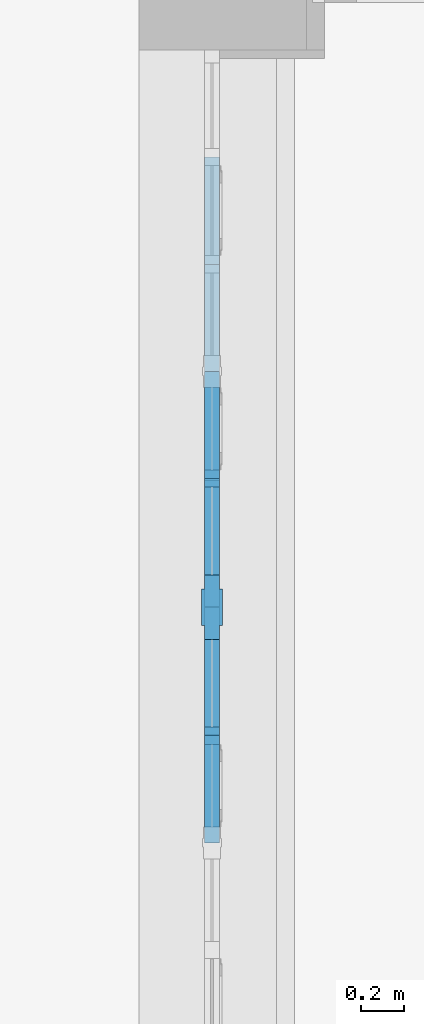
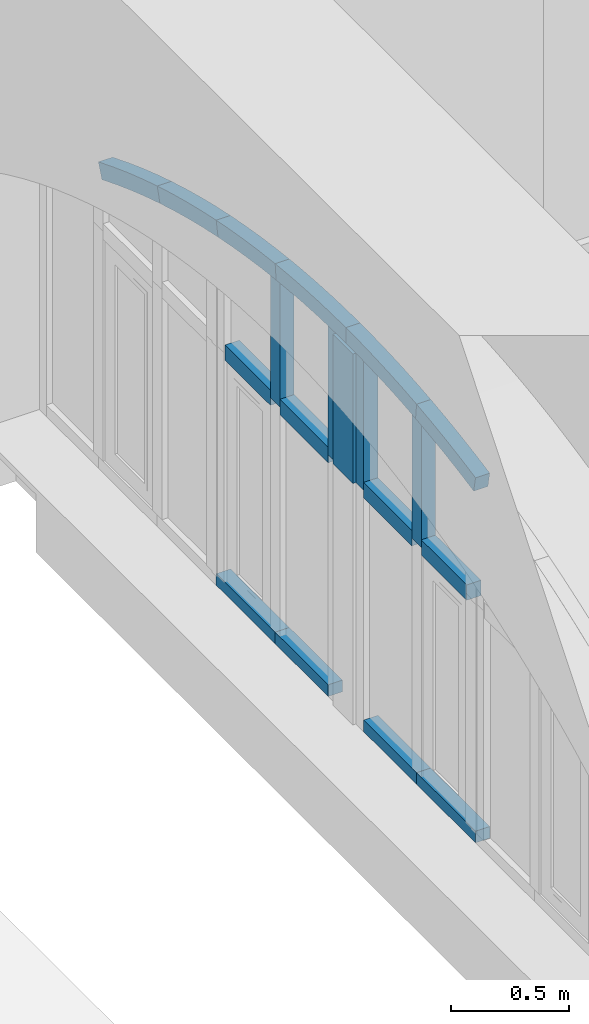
# One storey, part 37 of 88: 17 members, 1 element without a shape of its own.
"""IFC2X3 building model written with IfcOpenShell, lengths in millimetres."""

import ifcopenshell
import ifcopenshell.guid

model = None  # the IFC model being written
_history = None  # IfcOwnerHistory: only IFC2X3 demands one
_inside = {}  # id of a spatial element -> (the spatial element, [elements in it])
_under = {}  # id of a project, library or spatial element -> (it, [spatial elements below it])
_declared = {}  # id of a project -> (the project, [libraries it declares])
_typed = {}  # id of a type object -> (the type object, [elements of that type])
_made_of = {}  # id of a material, layer set ... -> (it, [elements and type objects made of it])


def new_model(schema):
    """Start an empty IFC model of exactly this schema.

    Asked for "IFC4X3", IfcOpenShell would pick the latest addendum, in which some entities
    have other attributes; the version numbers below select the first issue.
    IFC2X3 requires an IfcOwnerHistory on every rooted entity: one is made here for all.
    """
    global model, _history
    if schema == "IFC4X3":
        model = ifcopenshell.file(schema_version=(4, 3, 0, 0))
    else:
        model = ifcopenshell.file(schema=schema)
    _inside.clear()
    _under.clear()
    _declared.clear()
    _typed.clear()
    _made_of.clear()
    _history = None
    if model.schema == "IFC2X3":
        org = make("IfcOrganization", Name="unknown")
        user = make(
            "IfcPersonAndOrganization",
            ThePerson=make("IfcPerson", FamilyName="unknown"),
            TheOrganization=org,
        )
        app = make(
            "IfcApplication",
            ApplicationDeveloper=org,
            Version="unknown",
            ApplicationFullName="unknown",
            ApplicationIdentifier="unknown",
        )
        _history = make(
            "IfcOwnerHistory",
            OwningUser=user,
            OwningApplication=app,
            ChangeAction="ADDED",
            CreationDate=0,
        )
    return model


def make(cls, **values):
    """One entity of the class cls with the attributes given. An attribute that is None is left unset."""
    return model.create_entity(
        cls, **{name: value for name, value in values.items() if value is not None}
    )


def entity(cls, *values):
    """Any entity or typed value of the class cls, its attributes in the order of the schema. None: left unset."""
    e = model.create_entity(cls)
    for i, value in enumerate(values):
        if value is not None:
            e[i] = value
    return e


def rooted(cls, **values):
    """An entity with a GlobalId (a new one), such as an element, a storey or a relation."""
    return make(cls, GlobalId=ifcopenshell.guid.new(), OwnerHistory=_history, **values)


def si_unit(unit_type, name, prefix=None):
    """IfcSIUnit, for example si_unit("LENGTHUNIT", "METRE", prefix="MILLI")."""
    return make("IfcSIUnit", UnitType=unit_type, Prefix=prefix, Name=name)


def converted_unit(unit_type, name, factor, base, dimensions=None, offset=None):
    """IfcConversionBasedUnit, such as the inch: factor (a typed value) times the base unit."""
    return make(
        "IfcConversionBasedUnit"
        if offset is None
        else "IfcConversionBasedUnitWithOffset",
        ConversionOffset=offset,
        Dimensions=None
        if dimensions is None
        else entity("IfcDimensionalExponents", *dimensions),
        UnitType=unit_type,
        Name=name,
        ConversionFactor=make(
            "IfcMeasureWithUnit", ValueComponent=factor, UnitComponent=base
        ),
    )


def derived_unit(unit_type, elements):
    """IfcDerivedUnit: a product of units, each with its exponent."""
    return make(
        "IfcDerivedUnit",
        Elements=[
            make("IfcDerivedUnitElement", Unit=unit, Exponent=power)
            for unit, power in elements
        ],
        UnitType=unit_type,
    )


def assignment(units):
    """IfcUnitAssignment: the units of a project."""
    return None if units is None else make("IfcUnitAssignment", Units=units)


def point(xyz):
    """IfcCartesianPoint."""
    return None if xyz is None else make("IfcCartesianPoint", Coordinates=xyz)


def direction(xyz):
    """IfcDirection."""
    return None if xyz is None else make("IfcDirection", DirectionRatios=xyz)


def frame(location, z_axis=None, x_axis=None):
    """IfcAxis2Placement3D, a coordinate frame: its origin and axes. An axis left out is left unset."""
    return make(
        "IfcAxis2Placement3D",
        Location=point(location),
        Axis=direction(z_axis),
        RefDirection=direction(x_axis),
    )


def frame_2d(location, x_axis=None):
    """IfcAxis2Placement2D, a coordinate frame in the plane: its origin and x axis."""
    return make(
        "IfcAxis2Placement2D", Location=point(location), RefDirection=direction(x_axis)
    )


def origin():
    """The frame at (0, 0, 0) with its axes left unset."""
    return frame((0.0, 0.0, 0.0))


def place(relative_to, where):
    """IfcLocalPlacement: puts the frame where relative to a parent placement (None: the world)."""
    return make(
        "IfcLocalPlacement", PlacementRelTo=relative_to, RelativePlacement=where
    )


def context(
    kind, dimensions, precision=None, world=None, true_north=None, identifier=None
):
    """IfcGeometricRepresentationContext, for example the 3D "Model" context."""
    return make(
        "IfcGeometricRepresentationContext",
        ContextIdentifier=identifier,
        ContextType=kind,
        CoordinateSpaceDimension=dimensions,
        Precision=precision,
        WorldCoordinateSystem=world,
        TrueNorth=true_north,
    )


def subcontext(parent, identifier, kind, view, scale=None):
    """IfcGeometricRepresentationSubContext, for example "Body" below "Model"."""
    return make(
        "IfcGeometricRepresentationSubContext",
        ContextIdentifier=identifier,
        ContextType=kind,
        ParentContext=parent,
        TargetScale=scale,
        TargetView=view,
    )


def project(units=None, contexts=None):
    """IfcProject with its units and contexts."""
    return rooted(
        "IfcProject",
        Name="project",
        RepresentationContexts=contexts,
        UnitsInContext=assignment(units),
    )


def spatial(cls, under=None, at=None, **own):
    """A site, building, storey or space (cls), placed at a placement, below another one or the project."""
    s = rooted(cls, ObjectPlacement=at, **own)
    if under is not None:
        _under.setdefault(under.id(), (under, []))[1].append(s)
    return s


def polyline(points):
    """IfcPolyline through the points."""
    return make("IfcPolyline", Points=[point(p) for p in points])


def circle_curve(where, radius):
    """IfcCircle in the frame where."""
    return make("IfcCircle", Position=where, Radius=radius)


def parameter(value):
    """IfcParameterValue: where a trimmed curve begins or ends, as a parameter of its basis curve."""
    return model.create_entity("IfcParameterValue", value)


def trimmed(basis, trim1, trim2, sense, master):
    """IfcTrimmedCurve: the piece of a basis curve between two trims."""
    return make(
        "IfcTrimmedCurve",
        BasisCurve=basis,
        Trim1=trim1,
        Trim2=trim2,
        SenseAgreement=sense,
        MasterRepresentation=master,
    )


def segment(curve, same_sense, transition):
    """IfcCompositeCurveSegment."""
    return make(
        "IfcCompositeCurveSegment",
        Transition=transition,
        SameSense=same_sense,
        ParentCurve=curve,
    )


def composite_curve(segments, self_intersect=None):
    """IfcCompositeCurve: segments joined end to end."""
    return make("IfcCompositeCurve", Segments=segments, SelfIntersect=self_intersect)


def profile(cls, at=None, kind="AREA", **sizes):
    """A parametric profile (cls). Its sizes go by their IFC names, for example OverallWidth=200.0."""
    return make(cls, ProfileType=kind, Position=at, **sizes)


def rectangle(**sizes):
    """IfcRectangleProfileDef."""
    return profile("IfcRectangleProfileDef", **sizes)


def outline(outer, holes=None, kind="AREA"):
    """IfcArbitraryClosedProfileDef: a profile drawn as a closed curve; with holes, ...WithVoids."""
    if holes is None:
        return make("IfcArbitraryClosedProfileDef", ProfileType=kind, OuterCurve=outer)
    return make(
        "IfcArbitraryProfileDefWithVoids",
        ProfileType=kind,
        OuterCurve=outer,
        InnerCurves=holes,
    )


def extrude(swept, where, along, depth):
    """IfcExtrudedAreaSolid: the profile swept, set in the frame where, extruded along a direction by depth."""
    return make(
        "IfcExtrudedAreaSolid",
        SweptArea=swept,
        Position=where,
        ExtrudedDirection=direction(along),
        Depth=depth,
    )


def faces_of(points, faces, orient=None, outer=None):
    """IfcFace entities. A face is a list of loops; a loop is a list of indices into points, from 0.

    orient and outer hold one flag for each loop. By default every Orientation is true, the
    first loop of a face is its IfcFaceOuterBound and the others are IfcFaceBound.
    """
    made = []
    for i, loops in enumerate(faces):
        bounds = []
        for j, loop in enumerate(loops):
            is_outer = j == 0 if outer is None else outer[i][j]
            bounds.append(
                make(
                    "IfcFaceOuterBound" if is_outer else "IfcFaceBound",
                    Bound=make("IfcPolyLoop", Polygon=[points[k] for k in loop]),
                    Orientation=True if orient is None else orient[i][j],
                )
            )
        made.append(make("IfcFace", Bounds=bounds))
    return made


def faceted_brep(points, faces, orient=None, outer=None, voids=None):
    """IfcFacetedBrep: a solid bounded by flat faces; with voids (closed shells), ...WithVoids."""
    shared = [point(p) for p in points]
    hull = make("IfcClosedShell", CfsFaces=faces_of(shared, faces, orient, outer))
    if voids is None:
        return make("IfcFacetedBrep", Outer=hull)
    return make(
        "IfcFacetedBrepWithVoids",
        Outer=hull,
        Voids=[
            make(cls, CfsFaces=faces_of(shared, fs, o, b)) for cls, fs, o, b in voids
        ],
    )


def shape(context_of_items, identifier, shape_type, items):
    """IfcShapeRepresentation: the items that make up one representation, for example the "Body"."""
    return make(
        "IfcShapeRepresentation",
        ContextOfItems=context_of_items,
        RepresentationIdentifier=identifier,
        RepresentationType=shape_type,
        Items=items,
    )


def source(mapping_origin, context_of_items, identifier, shape_type, items):
    """IfcRepresentationMap: a shape defined once, which mapped items show again and again."""
    return make(
        "IfcRepresentationMap",
        MappingOrigin=mapping_origin,
        MappedRepresentation=shape(context_of_items, identifier, shape_type, items),
    )


def transform(
    local_origin,
    x_axis=None,
    y_axis=None,
    z_axis=None,
    scale=None,
    scale2=None,
    scale3=None,
    uniform=True,
):
    """IfcCartesianTransformationOperator3D, or its non-uniform kind. x_axis, y_axis, z_axis: its Axis1, 2, 3."""
    if uniform:
        return make(
            "IfcCartesianTransformationOperator3D",
            Axis1=direction(x_axis),
            Axis2=direction(y_axis),
            LocalOrigin=point(local_origin),
            Scale=scale,
            Axis3=direction(z_axis),
        )
    return make(
        "IfcCartesianTransformationOperator3DnonUniform",
        Axis1=direction(x_axis),
        Axis2=direction(y_axis),
        LocalOrigin=point(local_origin),
        Scale=scale,
        Axis3=direction(z_axis),
        Scale2=scale2,
        Scale3=scale3,
    )


def mapped(mapping_source, mapping_target):
    """IfcMappedItem: shows the shape of a source again, moved by a transform."""
    return make(
        "IfcMappedItem", MappingSource=mapping_source, MappingTarget=mapping_target
    )


def material(Name=None, Category=None):
    """IfcMaterial."""
    return make("IfcMaterial", Name=Name, Category=Category)


def made_of(thing, what):
    """Note that an element or type object is made of a material, layer set ...; save() writes the relation."""
    if what is not None:
        _made_of.setdefault(what.id(), (what, []))[1].append(thing)
    return thing


def type_object(cls, material=None, **own):
    """A type object (cls), such as IfcWallType, which elements share."""
    return made_of(rooted(cls, **own), material)


def type_shapes(of_type, sources):
    """Give a type object the sources (RepresentationMaps) that its elements show as mapped items."""
    of_type.RepresentationMaps = sources


def element(
    cls,
    number,
    at=None,
    inside=None,
    cuts=None,
    type_object=None,
    material=None,
    context=None,
    identifier="Body",
    shape_type=None,
    held_by="IfcProductDefinitionShape",
    body=None,
    shapes=None,
    **own,
):
    """One element of the class cls, such as IfcWall. Its Tag is "e" and its number.

    at: its placement. inside: the storey or other place that contains it. cuts: it is an
    opening in that element (IfcRelVoidsElement). A single representation is given by context,
    identifier, shape_type and body (its items); several are given by shapes. held_by: the class
    of the entity that holds the representations. save() writes the other relations.
    """
    e = rooted(cls, Tag="e%d" % number, ObjectPlacement=at, **own)
    if body is not None:
        shapes = [shape(context, identifier, shape_type, body)]
    if shapes is not None:
        e.Representation = make(held_by, Representations=shapes)
    if inside is not None:
        _inside.setdefault(inside.id(), (inside, []))[1].append(e)
    if cuts is not None:
        rooted(
            "IfcRelVoidsElement", RelatingBuildingElement=cuts, RelatedOpeningElement=e
        )
    if type_object is not None:
        _typed.setdefault(type_object.id(), (type_object, []))[1].append(e)
    return made_of(e, material)


def aggregate(whole, parts):
    """IfcRelAggregates: a whole, such as a stair, and the parts it consists of."""
    return rooted("IfcRelAggregates", RelatingObject=whole, RelatedObjects=parts)


def save(model, path):
    """Write the relations noted so far, then the file.

    IfcRelAggregates (storeys below a building ...), IfcRelContainedInSpatialStructure (elements
    in a storey), IfcRelDefinesByType, IfcRelAssociatesMaterial and IfcRelDeclares: one each for
    every whole, place, type object, material and project.
    """
    for whole, parts in _under.values():
        aggregate(whole, parts)
    for where, things in _inside.values():
        rooted(
            "IfcRelContainedInSpatialStructure",
            RelatedElements=things,
            RelatingStructure=where,
        )
    for kind, things in _typed.values():
        rooted("IfcRelDefinesByType", RelatedObjects=things, RelatingType=kind)
    for what, things in _made_of.values():
        rooted("IfcRelAssociatesMaterial", RelatedObjects=things, RelatingMaterial=what)
    for by, libraries in _declared.values():
        rooted("IfcRelDeclares", RelatingContext=by, RelatedDefinitions=libraries)
    model.write(path)


model = new_model("IFC2X3")

# Units and contexts
model_context = context("Model", 3, precision=0.01, world=origin(), true_north=direction((6.123031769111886e-17, 1.0)))
body_context = subcontext(model_context, "Body", "Model", "MODEL_VIEW")
ifc_project = project(units=[si_unit("LENGTHUNIT", "METRE", prefix="MILLI"), si_unit("AREAUNIT", "SQUARE_METRE"), si_unit("VOLUMEUNIT", "CUBIC_METRE"), converted_unit("PLANEANGLEUNIT", "DEGREE", entity("IfcPlaneAngleMeasure", 0.017453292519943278), si_unit("PLANEANGLEUNIT", "RADIAN"), dimensions=[0, 0, 0, 0, 0, 0, 0]), si_unit("MASSUNIT", "GRAM", prefix="KILO"), derived_unit("MASSDENSITYUNIT", [(si_unit("MASSUNIT", "GRAM", prefix="KILO"), 1), (si_unit("LENGTHUNIT", "METRE"), -3)]), derived_unit("IONCONCENTRATIONUNIT", [(si_unit("MASSUNIT", "GRAM", prefix="KILO"), 1), (si_unit("LENGTHUNIT", "METRE"), -3)]), derived_unit("MOMENTOFINERTIAUNIT", [(si_unit("LENGTHUNIT", "METRE"), 4)]), si_unit("TIMEUNIT", "SECOND"), si_unit("FREQUENCYUNIT", "HERTZ"), si_unit("THERMODYNAMICTEMPERATUREUNIT", "DEGREE_CELSIUS"), derived_unit("THERMALTRANSMITTANCEUNIT", [(si_unit("MASSUNIT", "GRAM", prefix="KILO"), 1), (si_unit("THERMODYNAMICTEMPERATUREUNIT", "KELVIN"), -1), (si_unit("TIMEUNIT", "SECOND"), -3)]), derived_unit("THERMALCONDUCTANCEUNIT", [(si_unit("MASSUNIT", "GRAM", prefix="KILO"), 1), (si_unit("THERMODYNAMICTEMPERATUREUNIT", "KELVIN"), -1), (si_unit("TIMEUNIT", "SECOND"), -3), (si_unit("LENGTHUNIT", "METRE"), 1)]), derived_unit("VOLUMETRICFLOWRATEUNIT", [(si_unit("LENGTHUNIT", "METRE", prefix="DECI"), 3), (si_unit("TIMEUNIT", "SECOND"), -1)]), derived_unit("MASSFLOWRATEUNIT", [(si_unit("MASSUNIT", "GRAM", prefix="KILO"), 1), (si_unit("TIMEUNIT", "SECOND"), -1)]), derived_unit("ROTATIONALFREQUENCYUNIT", [(si_unit("TIMEUNIT", "SECOND"), -1)]), si_unit("ELECTRICCURRENTUNIT", "AMPERE"), si_unit("ELECTRICVOLTAGEUNIT", "VOLT"), si_unit("POWERUNIT", "WATT"), si_unit("FORCEUNIT", "NEWTON", prefix="KILO"), si_unit("ILLUMINANCEUNIT", "LUX"), si_unit("LUMINOUSFLUXUNIT", "LUMEN"), si_unit("LUMINOUSINTENSITYUNIT", "CANDELA"), si_unit("ENERGYUNIT", "JOULE"), derived_unit("USERDEFINED", [(si_unit("MASSUNIT", "GRAM", prefix="KILO"), -1), (si_unit("LENGTHUNIT", "METRE"), -2), (si_unit("TIMEUNIT", "SECOND"), 3), (si_unit("LUMINOUSFLUXUNIT", "LUMEN"), 1)]), derived_unit("USERDEFINED", [(si_unit("MASSUNIT", "GRAM", prefix="KILO"), 1), (si_unit("TIMEUNIT", "SECOND"), -3), (si_unit("LENGTHUNIT", "METRE"), 3), (si_unit("ELECTRICCURRENTUNIT", "AMPERE"), -2)]), derived_unit("SOUNDPOWERUNIT", [(si_unit("MASSUNIT", "GRAM", prefix="KILO"), 1), (si_unit("TIMEUNIT", "SECOND"), -3), (si_unit("LENGTHUNIT", "METRE"), 2)]), derived_unit("SOUNDPRESSUREUNIT", [(si_unit("MASSUNIT", "GRAM", prefix="KILO"), 1), (si_unit("LENGTHUNIT", "METRE"), -1), (si_unit("TIMEUNIT", "SECOND"), -2)]), derived_unit("LINEARVELOCITYUNIT", [(si_unit("LENGTHUNIT", "METRE"), 1), (si_unit("TIMEUNIT", "SECOND"), -1)]), si_unit("PRESSUREUNIT", "PASCAL"), derived_unit("USERDEFINED", [(si_unit("MASSUNIT", "GRAM", prefix="KILO"), 1), (si_unit("LENGTHUNIT", "METRE"), -2), (si_unit("TIMEUNIT", "SECOND"), -2)]), derived_unit("LINEARFORCEUNIT", [(si_unit("MASSUNIT", "GRAM", prefix="KILO"), 1), (si_unit("TIMEUNIT", "SECOND"), -2)]), derived_unit("PLANARFORCEUNIT", [(si_unit("MASSUNIT", "GRAM", prefix="KILO"), 1), (si_unit("LENGTHUNIT", "METRE"), -1), (si_unit("TIMEUNIT", "SECOND"), -2)]), derived_unit("SPECIFICHEATCAPACITYUNIT", [(si_unit("THERMODYNAMICTEMPERATUREUNIT", "KELVIN"), -1), (si_unit("LENGTHUNIT", "METRE"), 2), (si_unit("TIMEUNIT", "SECOND"), -2)]), derived_unit("HEATFLUXDENSITYUNIT", [(si_unit("MASSUNIT", "GRAM", prefix="KILO"), 1), (si_unit("TIMEUNIT", "SECOND"), -3)]), derived_unit("HEATINGVALUEUNIT", [(si_unit("LENGTHUNIT", "METRE"), 2), (si_unit("TIMEUNIT", "SECOND"), -2)]), derived_unit("VAPORPERMEABILITYUNIT", [(si_unit("LENGTHUNIT", "METRE"), -1), (si_unit("TIMEUNIT", "SECOND"), 1)]), derived_unit("DYNAMICVISCOSITYUNIT", [(si_unit("MASSUNIT", "GRAM", prefix="KILO"), 1), (si_unit("TIMEUNIT", "SECOND"), -1), (si_unit("LENGTHUNIT", "METRE"), -1)]), derived_unit("THERMALEXPANSIONCOEFFICIENTUNIT", [(si_unit("THERMODYNAMICTEMPERATUREUNIT", "KELVIN"), -1)]), derived_unit("MODULUSOFELASTICITYUNIT", [(si_unit("MASSUNIT", "GRAM", prefix="KILO"), 1), (si_unit("LENGTHUNIT", "METRE"), -1), (si_unit("TIMEUNIT", "SECOND"), -2)]), derived_unit("ISOTHERMALMOISTURECAPACITYUNIT", [(si_unit("MASSUNIT", "GRAM", prefix="KILO"), -1), (si_unit("LENGTHUNIT", "METRE"), 3)]), derived_unit("MOISTUREDIFFUSIVITYUNIT", [(si_unit("TIMEUNIT", "SECOND"), -1), (si_unit("LENGTHUNIT", "METRE"), 2)]), derived_unit("MASSPERLENGTHUNIT", [(si_unit("MASSUNIT", "GRAM", prefix="KILO"), 1), (si_unit("LENGTHUNIT", "METRE"), -1)]), derived_unit("THERMALRESISTANCEUNIT", [(si_unit("MASSUNIT", "GRAM", prefix="KILO"), -1), (si_unit("TIMEUNIT", "SECOND"), 3), (si_unit("THERMODYNAMICTEMPERATUREUNIT", "KELVIN"), 1)]), derived_unit("ACCELERATIONUNIT", [(si_unit("LENGTHUNIT", "METRE"), 1), (si_unit("TIMEUNIT", "SECOND"), -2)]), derived_unit("ANGULARVELOCITYUNIT", [(si_unit("TIMEUNIT", "SECOND"), -1), (si_unit("PLANEANGLEUNIT", "RADIAN"), 1)]), derived_unit("LINEARSTIFFNESSUNIT", [(si_unit("MASSUNIT", "GRAM", prefix="KILO"), 1), (si_unit("TIMEUNIT", "SECOND"), -2)]), derived_unit("WARPINGCONSTANTUNIT", [(si_unit("LENGTHUNIT", "METRE"), 6)]), derived_unit("LINEARMOMENTUNIT", [(si_unit("MASSUNIT", "GRAM", prefix="KILO"), 1), (si_unit("LENGTHUNIT", "METRE"), 1), (si_unit("TIMEUNIT", "SECOND"), -2)]), derived_unit("TORQUEUNIT", [(si_unit("MASSUNIT", "GRAM", prefix="KILO"), 1), (si_unit("LENGTHUNIT", "METRE"), 2), (si_unit("TIMEUNIT", "SECOND"), -2)])], contexts=[model_context])

# Site, building, storey
site_placement = place(None, origin())
site = spatial("IfcSite", under=ifc_project, at=site_placement, Name="Default", CompositionType="ELEMENT")
building_placement = place(site_placement, origin())
building = spatial("IfcBuilding", under=site, at=building_placement, Name="Eesti Rahvusraamatukogu hoone renoveerimise projekteerimistööd", CompositionType="ELEMENT")
storey_placement = place(building_placement, origin())
storey = spatial("IfcBuildingStorey", under=building, at=storey_placement, Name="1. korrus", CompositionType="ELEMENT", Elevation=0.0)

# Curtain wall, members
curtain_wall_type = type_object("IfcCurtainWallType", Name="Curtain Wall:Ak-02", PredefinedType="NOTDEFINED")
curtain_wall_placement = place(storey_placement, origin())
curtain_wall = element("IfcCurtainWall", 1, at=curtain_wall_placement, inside=storey, type_object=curtain_wall_type, Name="Curtain Wall:Ak-02", ObjectType="Curtain Wall:Ak-02")
ifc_material = material(Name="LUMION_dark steel window frames")
member_type_1 = type_object("IfcMemberType", Name="Rectangular Mullion:NEW 80x70mm", PredefinedType="MULLION", material=ifc_material)
shared_shape_1 = source(origin(), body_context, "Body", "SweptSolid", [
    extrude(outline(composite_curve([segment(polyline([(-52.664386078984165, -263.1530214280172), (27.33561392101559, -263.1530214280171)]), True, "CONTINUOUS"), segment(trimmed(circle_curve(frame_2d((5468.051293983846, -263.1530214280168), x_axis=(-0.9953785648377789, 0.09602870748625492)), 5440.715680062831), [parameter(3.5622212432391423e-13)], [parameter(5.510531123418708)], True, "PARAMETER"), False, "CONTINUOUS"), segment(polyline([(52.479528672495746, 259.31187312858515), (-27.150756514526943, 266.9941697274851)]), True, "CONTINUOUS"), segment(trimmed(circle_curve(frame_2d((5468.051293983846, -263.1530214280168), x_axis=(-0.9953785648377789, 0.09602870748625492)), 5520.715680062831), [parameter(3.5622212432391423e-13)], [parameter(5.510531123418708)], True, "PARAMETER"), True, "CONTINUOUS")], self_intersect=False)), frame((-52.66438607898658, -35.0, -263.1530214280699), z_axis=(0.0, 1.0, 0.0), x_axis=(-0.9953785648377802, 0.0, 0.09602870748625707)), (0.0, 0.0, 1.0), 69.99999999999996),
])
type_shapes(member_type_1, [shared_shape_1])
member_1_placement = place(curtain_wall_placement, frame((-36440.0, 34990.0, 3743.6333100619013), z_axis=(0.0, -0.9570819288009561, 0.2898174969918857), x_axis=(0.0, 0.2898174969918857, 0.9570819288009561)))
member_1 = element("IfcMember", 2, at=member_1_placement, type_object=member_type_1, material=ifc_material, Name="Rectangular Mullion:NEW 80x70mm", ObjectType="Rectangular Mullion:NEW 80x70mm", context=body_context, shape_type="MappedRepresentation", body=[
    mapped(shared_shape_1, transform((0.0, 0.0, 0.0), scale=1.0)),
])
member_type_2 = type_object("IfcMemberType", Name="Rectangular Mullion:NEW 80x70mm", PredefinedType="MULLION", material=ifc_material)
shared_shape_2 = source(origin(), body_context, "Body", "SweptSolid", [
    extrude(outline(composite_curve([segment(polyline([(-51.955427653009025, -255.69780513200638), (28.04457234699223, -255.69780513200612)]), True, "CONTINUOUS"), segment(trimmed(circle_curve(frame_2d((5468.760252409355, -255.69780513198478), x_axis=(-0.9956372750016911, 0.09330818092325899)), 5440.715680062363), [parameter(3.5622212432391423e-13)], [parameter(5.353953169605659)], True, "PARAMETER"), False, "CONTINUOUS"), segment(polyline([(51.78091865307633, 251.96547789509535), (-27.870063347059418, 259.4301323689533)]), True, "CONTINUOUS"), segment(trimmed(circle_curve(frame_2d((5468.760252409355, -255.69780513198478), x_axis=(-0.9956372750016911, 0.09330818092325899)), 5520.715680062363), [parameter(3.5622212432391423e-13)], [parameter(5.353953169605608)], True, "PARAMETER"), True, "CONTINUOUS")], self_intersect=False)), frame((-51.95542765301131, -35.0, -255.69780513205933), z_axis=(0.0, 1.0, 0.0), x_axis=(-0.9956372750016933, 0.0, 0.09330818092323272)), (0.0, 0.0, 1.0), 70.00000000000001),
])
type_shapes(member_type_2, [shared_shape_2])
member_2_placement = place(curtain_wall_placement, frame((-36440.0, 34490.0, 3869.8747326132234), z_axis=(0.0, -0.9799487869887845, 0.199249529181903), x_axis=(0.0, 0.199249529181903, 0.9799487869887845)))
member_2 = element("IfcMember", 3, at=member_2_placement, type_object=member_type_2, material=ifc_material, Name="Rectangular Mullion:NEW 80x70mm", ObjectType="Rectangular Mullion:NEW 80x70mm", context=body_context, shape_type="MappedRepresentation", body=[
    mapped(shared_shape_2, transform((0.0, 0.0, 0.0), scale=1.0)),
])
member_type_3 = type_object("IfcMemberType", Name="Rectangular Mullion:NEW 80x70mm", PredefinedType="MULLION", material=ifc_material)
shared_shape_3 = source(origin(), body_context, "Body", "SweptSolid", [
    extrude(outline(composite_curve([segment(polyline([(-51.51245202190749, -250.9261639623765), (28.487547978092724, -250.92616396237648)]), True, "CONTINUOUS"), segment(trimmed(circle_curve(frame_2d((5469.203228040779, -250.92616396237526), x_axis=(-0.99579892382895, 0.0915669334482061)), 5440.715680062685), [parameter(3.5622212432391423e-13)], [parameter(5.2537580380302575)], True, "PARAMETER"), False, "CONTINUOUS"), segment(polyline([(51.344408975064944, 247.26348662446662), (-28.319504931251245, 254.58884130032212)]), True, "CONTINUOUS"), segment(trimmed(circle_curve(frame_2d((5469.203228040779, -250.92616396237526), x_axis=(-0.99579892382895, 0.0915669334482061)), 5520.715680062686), [parameter(3.5622212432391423e-13)], [parameter(5.2537580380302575)], True, "PARAMETER"), True, "CONTINUOUS")], self_intersect=False)), frame((-51.51245202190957, -35.0, -250.92616396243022), z_axis=(0.0, 1.0, 0.0), x_axis=(-0.995798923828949, 0.0, 0.09156693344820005)), (0.0, 0.0, 1.0), 70.00000000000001),
])
type_shapes(member_type_3, [shared_shape_3])
member_3_placement = place(curtain_wall_placement, frame((-36440.0, 33990.0, 3947.8704590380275), z_axis=(0.0, -0.994076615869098, 0.1086815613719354), x_axis=(0.0, 0.1086815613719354, 0.994076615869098)))
member_3 = element("IfcMember", 4, at=member_3_placement, type_object=member_type_3, material=ifc_material, Name="Rectangular Mullion:NEW 80x70mm", ObjectType="Rectangular Mullion:NEW 80x70mm", context=body_context, shape_type="MappedRepresentation", body=[
    mapped(shared_shape_3, transform((0.0, 0.0, 0.0), scale=1.0)),
])
member_type_4 = type_object("IfcMemberType", Name="Rectangular Mullion:NEW 80x70mm", PredefinedType="MULLION", material=ifc_material)
shared_shape_4 = source(origin(), body_context, "Body", "SweptSolid", [
    extrude(outline(composite_curve([segment(polyline([(-56.23219214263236, -297.82636877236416), (23.767807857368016, -297.82636877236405)]), True, "CONTINUOUS"), segment(trimmed(circle_curve(frame_2d((5464.483487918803, -297.82636877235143), x_axis=(-0.9940766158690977, 0.10868156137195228)), 5440.715680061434), [parameter(3.053332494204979e-13)], [parameter(6.2393189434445)], True, "PARAMETER"), False, "CONTINUOUS"), segment(polyline([(55.99525677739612, 293.47910631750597), (-23.53087249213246, 302.1736312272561)]), True, "CONTINUOUS"), segment(trimmed(circle_curve(frame_2d((5464.483487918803, -297.82636877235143), x_axis=(-0.9940766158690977, 0.10868156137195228)), 5520.715680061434), [parameter(3.5622212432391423e-13)], [parameter(6.2393189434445)], True, "PARAMETER"), True, "CONTINUOUS")], self_intersect=False)), frame((-56.23219214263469, -35.0, -297.82636877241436), z_axis=(0.0, 1.0, 0.0), x_axis=(-0.9940766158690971, 0.0, 0.10868156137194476)), (0.0, 0.0, 1.0), 69.99999999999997),
])
type_shapes(member_type_4, [shared_shape_4])
member_4_placement = place(curtain_wall_placement, frame((-36440.0, 32790.0, 3947.8704590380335), z_axis=(0.0, -0.9940766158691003, -0.10868156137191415), x_axis=(0.0, -0.10868156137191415, 0.9940766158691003)))
member_4 = element("IfcMember", 5, at=member_4_placement, type_object=member_type_4, material=ifc_material, Name="Rectangular Mullion:NEW 80x70mm", ObjectType="Rectangular Mullion:NEW 80x70mm", context=body_context, shape_type="MappedRepresentation", body=[
    mapped(shared_shape_4, transform((0.0, 0.0, 0.0), scale=1.0)),
])
member_type_5 = type_object("IfcMemberType", Name="Rectangular Mullion:NEW 80x70mm", PredefinedType="MULLION", material=ifc_material)
shared_shape_5 = source(origin(), body_context, "Body", "SweptSolid", [
    extrude(outline(composite_curve([segment(polyline([(-51.51245202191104, -250.9261639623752), (28.487547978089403, -250.92616396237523)]), True, "CONTINUOUS"), segment(trimmed(circle_curve(frame_2d((5469.203228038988, -250.9261639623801), x_axis=(-0.9957989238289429, 0.09156693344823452)), 5440.715680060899), [parameter(3.5622212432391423e-13)], [parameter(5.253758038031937)], True, "PARAMETER"), False, "CONTINUOUS"), segment(polyline([(51.34440897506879, 247.26348662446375), (-28.319504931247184, 254.5888413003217)]), True, "CONTINUOUS"), segment(trimmed(circle_curve(frame_2d((5469.203228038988, -250.9261639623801), x_axis=(-0.9957989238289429, 0.09156693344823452)), 5520.715680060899), [parameter(3.5622212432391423e-13)], [parameter(5.253758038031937)], True, "PARAMETER"), True, "CONTINUOUS")], self_intersect=False)), frame((-51.512452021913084, -35.0, -250.926163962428), z_axis=(0.0, 1.0, 0.0), x_axis=(-0.9957989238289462, 0.0, 0.09156693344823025)), (0.0, 0.0, 1.0), 70.00000000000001),
])
type_shapes(member_type_5, [shared_shape_5])
member_5_placement = place(curtain_wall_placement, frame((-36440.0, 32290.0, 3869.874732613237), z_axis=(0.0, -0.9799487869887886, -0.19924952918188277), x_axis=(0.0, -0.19924952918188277, 0.9799487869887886)))
member_5 = element("IfcMember", 6, at=member_5_placement, type_object=member_type_5, material=ifc_material, Name="Rectangular Mullion:NEW 80x70mm", ObjectType="Rectangular Mullion:NEW 80x70mm", context=body_context, shape_type="MappedRepresentation", body=[
    mapped(shared_shape_5, transform((0.0, 0.0, 0.0), scale=1.0)),
])
member_type_6 = type_object("IfcMemberType", Name="Rectangular Mullion:NEW 80x70mm", PredefinedType="MULLION", material=ifc_material)
shared_shape_6 = source(origin(), body_context, "Body", "SweptSolid", [
    extrude(outline(composite_curve([segment(polyline([(-56.232192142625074, -297.82636877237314), (23.767807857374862, -297.82636877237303)]), True, "CONTINUOUS"), segment(trimmed(circle_curve(frame_2d((5464.483487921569, -297.8263687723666), x_axis=(-0.9940766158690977, 0.10868156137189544)), 5440.715680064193), [parameter(3.5622212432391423e-13)], [parameter(6.239318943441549)], True, "PARAMETER"), False, "CONTINUOUS"), segment(polyline([(55.99525677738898, 293.47910631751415), (-23.53087249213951, 302.1736312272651)]), True, "CONTINUOUS"), segment(trimmed(circle_curve(frame_2d((5464.483487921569, -297.8263687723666), x_axis=(-0.9940766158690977, 0.10868156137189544)), 5520.715680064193), [parameter(3.5622212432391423e-13)], [parameter(6.239318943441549)], True, "PARAMETER"), True, "CONTINUOUS")], self_intersect=False)), frame((-56.232192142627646, -35.0, -297.8263687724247), z_axis=(0.0, 1.0, 0.0), x_axis=(-0.9940766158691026, 0.0, 0.1086815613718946)), (0.0, 0.0, 1.0), 69.99999999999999),
])
type_shapes(member_type_6, [shared_shape_6])
member_6_placement = place(curtain_wall_placement, frame((-36440.0, 33390.0, 3980.5717786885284), z_axis=(0.0, -1.0, 0.0), x_axis=(0.0, 0.0, 1.0)))
member_6 = element("IfcMember", 7, at=member_6_placement, type_object=member_type_6, material=ifc_material, Name="Rectangular Mullion:NEW 80x70mm", ObjectType="Rectangular Mullion:NEW 80x70mm", context=body_context, shape_type="MappedRepresentation", body=[
    mapped(shared_shape_6, transform((0.0, 0.0, 0.0), scale=1.0)),
])
member_type_7 = type_object("IfcMemberType", Name="Rectangular Mullion:NEW 80x70mm", PredefinedType="MULLION", material=ifc_material)
shared_shape_7 = source(origin(), body_context, "Body", "SweptSolid", [
    extrude(outline(composite_curve([segment(polyline([(-382.563636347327, -38.261095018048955), (259.11166761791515, -38.261095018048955)]), True, "CONTINUOUS"), segment(trimmed(circle_curve(frame_2d((-5152.707537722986, -598.2610950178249), x_axis=(1.0, 0.0)), 5440.715680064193), [parameter(5.907781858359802)], [parameter(6.239318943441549)], True, "PARAMETER"), True, "CONTINUOUS"), segment(trimmed(circle_curve(frame_2d((-5152.707537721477, -598.2610950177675), x_axis=(0.994076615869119, 0.10868156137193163)), 5440.715680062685), [parameter(0.0)], [parameter(0.5161152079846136)], True, "PARAMETER"), True, "CONTINUOUS"), segment(polyline([(250.23491165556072, 41.73890498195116), (-382.563636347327, 41.738904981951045)]), True, "CONTINUOUS"), segment(polyline([(-382.563636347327, 41.738904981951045), (-382.563636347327, -38.261095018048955)]), True, "CONTINUOUS")], self_intersect=False)), frame((1.7389049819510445, -35.0, -382.563636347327), z_axis=(0.0, 1.0, 0.0), x_axis=(0.0, 0.0, -1.0)), (0.0, 0.0, 1.0), 69.99999999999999),
])
type_shapes(member_type_7, [shared_shape_7])
member_7_placement = place(curtain_wall_placement, frame((-36440.0, 33990.0, 3230.0), z_axis=(0.0, 0.0, -1.0), x_axis=(0.0, -1.0, 0.0)))
member_7 = element("IfcMember", 8, at=member_7_placement, type_object=member_type_7, material=ifc_material, Name="Rectangular Mullion:NEW 80x70mm", ObjectType="Rectangular Mullion:NEW 80x70mm", context=body_context, shape_type="MappedRepresentation", body=[
    mapped(shared_shape_7, transform((0.0, 0.0, 0.0), scale=1.0)),
])
member_type_8 = type_object("IfcMemberType", Name="Rectangular Mullion:NEW 300x100mm", PredefinedType="MULLION", material=ifc_material)
shared_shape_8 = source(origin(), body_context, "Body", "Brep", [
    faceted_brep([(-85.0, -50.0, 0.0), (85.0, -50.0, 0.0), (85.0, -35.0, 0.0), (150.0, -35.0, 0.0), (150.0, 35.0, 0.0), (85.0, 35.0, 0.0), (85.0, 50.0, 0.0), (-85.0, 50.0, 0.0), (-85.0, 35.0, 0.0), (-150.0, 35.0, 0.0), (-150.0, -35.0, 0.0), (-85.0, -35.0, 0.0), (-85.0, 35.0, -669.9077630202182), (-117.50209737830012, 35.0, -669.3027955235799), (-150.0, 35.0, -668.5036429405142), (150.0, 35.0, -668.5036429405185), (117.50209737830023, 35.0, -669.3027955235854), (85.0, 35.0, -669.9077630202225), (-150.0, -35.0, -668.5036429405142), (-117.5020973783, -35.0, -669.3027955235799), (-85.0, -35.0, -669.9077630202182), (85.0, -35.0, -669.9077630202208), (117.50209737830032, -35.0, -669.3027955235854), (150.0, -35.0, -668.5036429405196), (-85.0, -50.0, -669.9077630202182), (-85.0, 50.0, -669.9077630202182), (-42.50064842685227, -50.0, -670.4057773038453), (0.0, -50.0, -670.5717786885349), (42.500648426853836, -50.0, -670.4057773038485), (85.0, -50.0, -669.9077630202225), (85.0, 50.0, -669.9077630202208), (42.500648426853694, 50.0, -670.4057773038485), (0.0, 50.0, -670.5717786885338), (-42.50064842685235, 50.0, -670.4057773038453)], [[[0, 1, 2, 3, 4, 5, 6, 7, 8, 9, 10, 11]], [[9, 8, 12, 13, 14]], [[5, 4, 15, 16, 17]], [[10, 9, 14, 18]], [[11, 10, 18, 19, 20]], [[3, 2, 21, 22, 23]], [[0, 11, 20, 24]], [[8, 7, 25, 12]], [[1, 0, 24, 26, 27, 28, 29]], [[2, 1, 29, 21]], [[6, 5, 17, 30]], [[4, 3, 23, 15]], [[7, 6, 30, 31, 32, 33, 25]], [[33, 32, 27, 26]], [[20, 12, 25, 33, 26, 24]], [[20, 19, 13, 12]], [[19, 18, 14, 13]], [[15, 23, 22, 16]], [[16, 22, 21, 17]], [[21, 29, 28, 31, 30, 17]], [[31, 28, 27, 32]]]),
])
type_shapes(member_type_8, [shared_shape_8])
member_8_placement = place(curtain_wall_placement, frame((-36440.0, 33390.0, 3230.0), z_axis=(0.0, 0.0, -1.0), x_axis=(0.0, -1.0, 0.0)))
member_8 = element("IfcMember", 9, at=member_8_placement, type_object=member_type_8, material=ifc_material, Name="Rectangular Mullion:NEW 300x100mm", ObjectType="Rectangular Mullion:NEW 300x100mm", context=body_context, shape_type="MappedRepresentation", body=[
    mapped(shared_shape_8, transform((0.0, 0.0, 0.0), scale=1.0)),
])
member_type_9 = type_object("IfcMemberType", Name="Rectangular Mullion:NEW 80x70mm", PredefinedType="MULLION", material=ifc_material)
shared_shape_9 = source(origin(), body_context, "Body", "SweptSolid", [
    extrude(outline(composite_curve([segment(polyline([(-382.56363634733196, -41.73890498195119), (250.23491165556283, -41.73890498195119)]), True, "CONTINUOUS"), segment(trimmed(circle_curve(frame_2d((-5152.707537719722, 598.2610950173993), x_axis=(0.9799487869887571, -0.19924952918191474)), 5440.715680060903), [parameter(4.737642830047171)], [parameter(5.253758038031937)], True, "PARAMETER"), True, "CONTINUOUS"), segment(trimmed(circle_curve(frame_2d((-5152.70753772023, 598.2610950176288), x_axis=(0.994076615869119, -0.10868156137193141)), 5440.715680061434), [parameter(0.0)], [parameter(0.33153708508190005)], True, "PARAMETER"), True, "CONTINUOUS"), segment(polyline([(259.11166761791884, 38.26109501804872), (-382.56363634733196, 38.26109501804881)]), True, "CONTINUOUS"), segment(polyline([(-382.56363634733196, 38.26109501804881), (-382.56363634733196, -41.73890498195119)]), True, "CONTINUOUS")], self_intersect=False)), frame((-1.7389049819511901, -35.0, -382.56363634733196), z_axis=(0.0, 1.0, 0.0), x_axis=(0.0, 0.0, -1.0)), (0.0, 0.0, 1.0), 70.00000000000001),
])
type_shapes(member_type_9, [shared_shape_9])
member_9_placement = place(curtain_wall_placement, frame((-36440.0, 32790.0, 3230.0), z_axis=(0.0, 0.0, -1.0), x_axis=(0.0, -1.0, 0.0)))
member_9 = element("IfcMember", 10, at=member_9_placement, type_object=member_type_9, material=ifc_material, Name="Rectangular Mullion:NEW 80x70mm", ObjectType="Rectangular Mullion:NEW 80x70mm", context=body_context, shape_type="MappedRepresentation", body=[
    mapped(shared_shape_9, transform((0.0, 0.0, 0.0), scale=1.0)),
])
member_type_10 = type_object("IfcMemberType", Name="Rectangular Mullion:NEW 80x70mm", PredefinedType="MULLION", material=ifc_material)
shared_shape_10 = source(origin(), body_context, "Body", "SweptSolid", [
    extrude(rectangle(XDim=80.0, YDim=70.0, at=frame_2d((0.0, -3.552713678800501e-15), x_axis=(1.0, 0.0))), frame((0.0, 0.0, -385.0), z_axis=(0.0, 0.0, 1.0), x_axis=(-1.0, 0.0, 0.0)), (0.0, 0.0, 1.0), 384.99999999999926),
])
type_shapes(member_type_10, [shared_shape_10])
member_10_placement = place(curtain_wall_placement, frame((-36440.0, 34030.0, 3230.0), z_axis=(0.0, -1.0, 0.0), x_axis=(0.0, 0.0, 1.0)))
member_10 = element("IfcMember", 11, at=member_10_placement, type_object=member_type_10, material=ifc_material, Name="Rectangular Mullion:NEW 80x70mm", ObjectType="Rectangular Mullion:NEW 80x70mm", context=body_context, shape_type="MappedRepresentation", body=[
    mapped(shared_shape_10, transform((0.0, 0.0, 0.0), scale=1.0)),
])
member_11_placement = place(curtain_wall_placement, frame((-36440.0, 32365.0, 3230.0), z_axis=(0.0, -1.0, 0.0), x_axis=(0.0, 0.0, 1.0)))
member_11 = element("IfcMember", 12, at=member_11_placement, type_object=member_type_10, material=ifc_material, Name="Rectangular Mullion:NEW 80x70mm", ObjectType="Rectangular Mullion:NEW 80x70mm", context=body_context, shape_type="MappedRepresentation", body=[
    mapped(shared_shape_10, transform((0.0, 0.0, 0.0), scale=1.0)),
])
member_type_11 = type_object("IfcMemberType", Name="Rectangular Mullion:NEW 80x70mm", PredefinedType="MULLION", material=ifc_material)
shared_shape_11 = source(origin(), body_context, "Body", "SweptSolid", [
    extrude(rectangle(XDim=80.0, YDim=70.0, at=frame_2d((0.0, -3.552713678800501e-15), x_axis=(1.0, 0.0))), frame((0.0, 0.0, -410.0), z_axis=(0.0, 0.0, 1.0), x_axis=(-1.0, 0.0, 0.0)), (0.0, 0.0, 1.0), 409.9999999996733),
])
type_shapes(member_type_11, [shared_shape_11])
member_12_placement = place(curtain_wall_placement, frame((-36440.0, 33540.0, 3230.0), z_axis=(0.0, -1.0, 0.0), x_axis=(0.0, 0.0, 1.0)))
member_12 = element("IfcMember", 13, at=member_12_placement, type_object=member_type_11, material=ifc_material, Name="Rectangular Mullion:NEW 80x70mm", ObjectType="Rectangular Mullion:NEW 80x70mm", context=body_context, shape_type="MappedRepresentation", body=[
    mapped(shared_shape_11, transform((0.0, 0.0, 0.0), scale=1.0)),
])
member_13_placement = place(curtain_wall_placement, frame((-36440.0, 32830.0, 3230.0), z_axis=(0.0, -1.0, 0.0), x_axis=(0.0, 0.0, 1.0)))
member_13 = element("IfcMember", 14, at=member_13_placement, type_object=member_type_11, material=ifc_material, Name="Rectangular Mullion:NEW 80x70mm", ObjectType="Rectangular Mullion:NEW 80x70mm", context=body_context, shape_type="MappedRepresentation", body=[
    mapped(shared_shape_11, transform((0.0, 0.0, 0.0), scale=1.0)),
])
member_type_12 = type_object("IfcMemberType", Name="Rectangular Mullion:NEW 60x70mm", PredefinedType="MULLION", material=ifc_material)
shared_shape_12 = source(origin(), body_context, "Body", "SweptSolid", [
    extrude(rectangle(XDim=60.0, YDim=70.0, at=frame_2d((0.0, 3.552713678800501e-15), x_axis=(1.0, 0.0))), frame((-30.0, 0.0, -500.0), z_axis=(0.0, 0.0, 1.0), x_axis=(-1.0, 0.0, 0.0)), (0.0, 0.0, 1.0), 499.999999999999),
])
type_shapes(member_type_12, [shared_shape_12])
member_14_placement = place(curtain_wall_placement, frame((-36440.0, 34490.0, 1980.0), z_axis=(0.0, 1.0, 0.0), x_axis=(0.0, 0.0, -1.0)))
member_14 = element("IfcMember", 15, at=member_14_placement, type_object=member_type_12, material=ifc_material, Name="Rectangular Mullion:NEW 60x70mm", ObjectType="Rectangular Mullion:NEW 60x70mm", context=body_context, shape_type="MappedRepresentation", body=[
    mapped(shared_shape_12, transform((0.0, 0.0, 0.0), scale=1.0)),
])
member_15_placement = place(curtain_wall_placement, frame((-36440.0, 32790.0, 1980.0), z_axis=(0.0, 1.0, 0.0), x_axis=(0.0, 0.0, -1.0)))
member_15 = element("IfcMember", 16, at=member_15_placement, type_object=member_type_12, material=ifc_material, Name="Rectangular Mullion:NEW 60x70mm", ObjectType="Rectangular Mullion:NEW 60x70mm", context=body_context, shape_type="MappedRepresentation", body=[
    mapped(shared_shape_12, transform((0.0, 0.0, 0.0), scale=1.0)),
])
member_type_13 = type_object("IfcMemberType", Name="Rectangular Mullion:NEW 60x70mm", PredefinedType="MULLION", material=ifc_material)
shared_shape_13 = source(origin(), body_context, "Body", "SweptSolid", [
    extrude(rectangle(XDim=60.0, YDim=70.0, at=frame_2d((0.0, 3.552713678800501e-15), x_axis=(1.0, 0.0))), frame((-30.0, 0.0, -450.0), z_axis=(0.0, 0.0, 1.0), x_axis=(-1.0, 0.0, 0.0)), (0.0, 0.0, 1.0), 449.99999999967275),
])
type_shapes(member_type_13, [shared_shape_13])
member_16_placement = place(curtain_wall_placement, frame((-36440.0, 33990.0, 1980.0), z_axis=(0.0, 1.0, 0.0), x_axis=(0.0, 0.0, -1.0)))
member_16 = element("IfcMember", 17, at=member_16_placement, type_object=member_type_13, material=ifc_material, Name="Rectangular Mullion:NEW 60x70mm", ObjectType="Rectangular Mullion:NEW 60x70mm", context=body_context, shape_type="MappedRepresentation", body=[
    mapped(shared_shape_13, transform((0.0, 0.0, 0.0), scale=1.0)),
])
member_type_14 = type_object("IfcMemberType", Name="Rectangular Mullion:NEW 60x70mm", PredefinedType="MULLION", material=ifc_material)
shared_shape_14 = source(origin(), body_context, "Body", "SweptSolid", [
    extrude(rectangle(XDim=60.0, YDim=70.0, at=frame_2d((0.0, 3.552713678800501e-15), x_axis=(1.0, 0.0))), frame((-30.0, 0.0, -450.0), z_axis=(0.0, 0.0, 1.0), x_axis=(-1.0, 0.0, 0.0)), (0.0, 0.0, 1.0), 449.9999999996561),
])
type_shapes(member_type_14, [shared_shape_14])
member_17_placement = place(curtain_wall_placement, frame((-36440.0, 33240.0, 1980.0), z_axis=(0.0, 1.0, 0.0), x_axis=(0.0, 0.0, -1.0)))
member_17 = element("IfcMember", 18, at=member_17_placement, type_object=member_type_14, material=ifc_material, Name="Rectangular Mullion:NEW 60x70mm", ObjectType="Rectangular Mullion:NEW 60x70mm", context=body_context, shape_type="MappedRepresentation", body=[
    mapped(shared_shape_14, transform((0.0, 0.0, 0.0), scale=1.0)),
])
aggregate(curtain_wall, [member_1, member_2, member_3, member_4, member_5, member_6, member_7, member_8, member_9, member_10, member_12, member_11, member_13, member_14, member_16, member_15, member_17])

save(model, "model.ifc")
